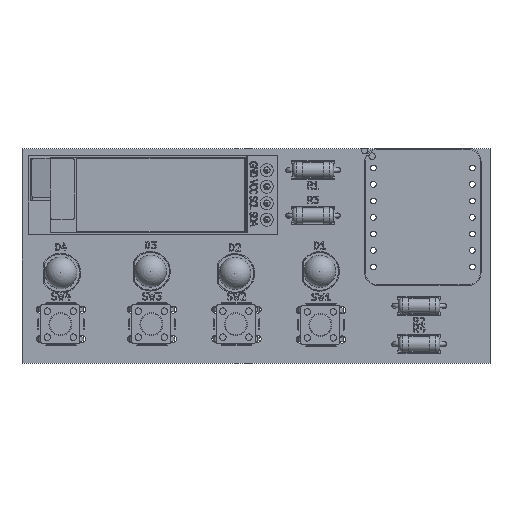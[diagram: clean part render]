
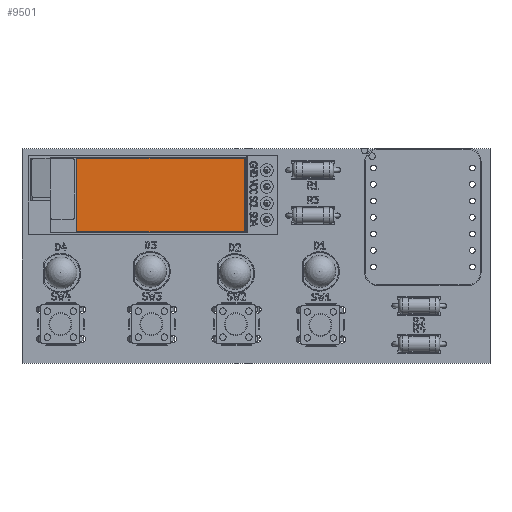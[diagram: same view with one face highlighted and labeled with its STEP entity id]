
A CAD part, top view. The second image highlights one B-rep face of the part: STEP entity #9501.
In plain terms, the highlighted planar face has unit normal (0, 0, 1).
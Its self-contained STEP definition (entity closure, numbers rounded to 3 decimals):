
#9392 = VERTEX_POINT('',#9393);
#9393 = CARTESIAN_POINT('',(11.7,5.65,2.51));
#9399 = EDGE_CURVE('',#9400,#9392,#9402,.T.);
#9400 = VERTEX_POINT('',#9401);
#9401 = CARTESIAN_POINT('',(11.7,-5.65,2.51));
#9402 = LINE('',#9403,#9404);
#9403 = CARTESIAN_POINT('',(11.7,5.65,2.51));
#9404 = VECTOR('',#9405,1.);
#9405 = DIRECTION('',(0.,1.,0.));
#9430 = EDGE_CURVE('',#9431,#9400,#9433,.T.);
#9431 = VERTEX_POINT('',#9432);
#9432 = CARTESIAN_POINT('',(-14.1,-5.65,2.51));
#9433 = LINE('',#9434,#9435);
#9434 = CARTESIAN_POINT('',(11.7,-5.65,2.51));
#9435 = VECTOR('',#9436,1.);
#9436 = DIRECTION('',(1.,0.,0.));
#9461 = EDGE_CURVE('',#9462,#9431,#9464,.T.);
#9462 = VERTEX_POINT('',#9463);
#9463 = CARTESIAN_POINT('',(-14.1,5.65,2.51));
#9464 = LINE('',#9465,#9466);
#9465 = CARTESIAN_POINT('',(-14.1,-5.65,2.51));
#9466 = VECTOR('',#9467,1.);
#9467 = DIRECTION('',(0.,-1.,0.));
#9490 = EDGE_CURVE('',#9392,#9462,#9491,.T.);
#9491 = LINE('',#9492,#9493);
#9492 = CARTESIAN_POINT('',(-14.1,5.65,2.51));
#9493 = VECTOR('',#9494,1.);
#9494 = DIRECTION('',(-1.,0.,0.));
#9501 = ADVANCED_FACE('',(#9502),#9508,.T.);
#9502 = FACE_BOUND('',#9503,.T.);
#9503 = EDGE_LOOP('',(#9504,#9505,#9506,#9507));
#9504 = ORIENTED_EDGE('',*,*,#9490,.T.);
#9505 = ORIENTED_EDGE('',*,*,#9461,.T.);
#9506 = ORIENTED_EDGE('',*,*,#9430,.T.);
#9507 = ORIENTED_EDGE('',*,*,#9399,.T.);
#9508 = PLANE('',#9509);
#9509 = AXIS2_PLACEMENT_3D('',#9510,#9511,#9512);
#9510 = CARTESIAN_POINT('',(-1.2,0.,2.51));
#9511 = DIRECTION('',(0.,0.,1.));
#9512 = DIRECTION('',(1.,0.,-0.));
